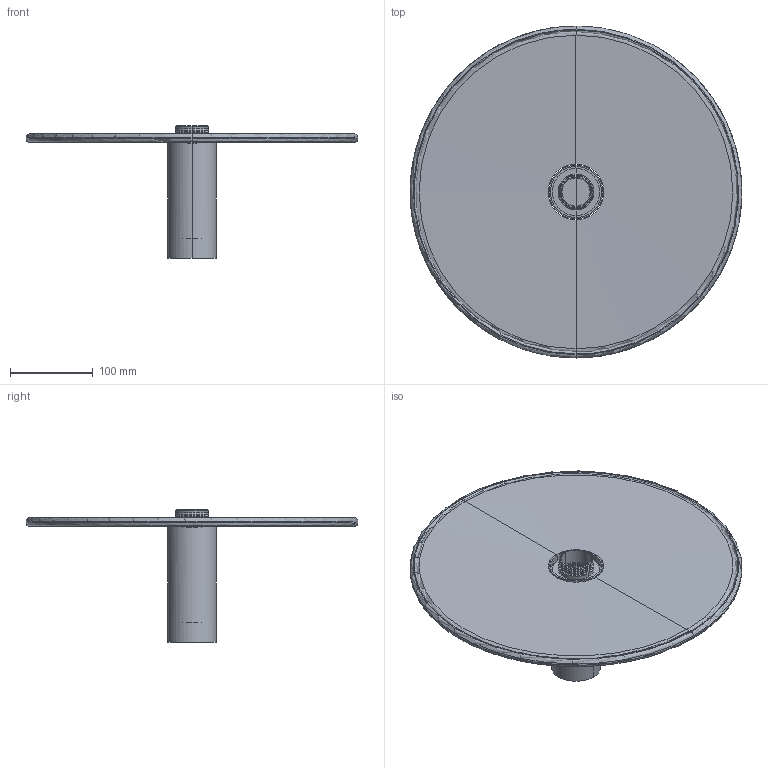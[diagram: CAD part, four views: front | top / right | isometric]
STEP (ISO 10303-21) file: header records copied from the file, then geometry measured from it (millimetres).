
FILE_DESCRIPTION(/* description */ (''),/* implementation_level */ '2;1');
FILE_NAME(/* name */ '62174-78.step',/* time_stamp */ '2024-04-04T09:58:34+02:00',/* author */ ('RenataManzini'),/* organization */ (''),/* preprocessor_version */ 'ST-DEVELOPER v20',/* originating_system */ 'AutoCAD Mechanical',/* authorisation */ '');
FILE_SCHEMA (('AUTOMOTIVE_DESIGN { 1 0 10303 214 3 1 1 }'));
Length unit declared in the file: millimetre
Products named in the file (3): Product; Pieza_62173_62174 - LAMP-425735-_3D_; COSTAS_Shade_69_78 - Shade-425733-_3D_
Assembly tree (2 placements, depth 2):
  Product
    Pieza_62173_62174 - LAMP-425735-_3D_
    COSTAS_Shade_69_78 - Shade-425733-_3D_
Bounding box: 399.71 x 400 x 160 mm (x, y, z)
Volume: 1227393.5 mm3; surface area: 356009.2 mm2
Topology: 5 solids, 5 shells, 106 faces, 244 edges, 138 vertices
Faces by surface type: cylinder 46, plane 32, torus 24, cone 4
Entity records: 4264 total; most frequent: CARTESIAN_POINT 1841, DIRECTION 500, ORIENTED_EDGE 488, EDGE_CURVE 244, AXIS2_PLACEMENT_3D 209, VERTEX_POINT 138, EDGE_LOOP 110, FACE_OUTER_BOUND 106
